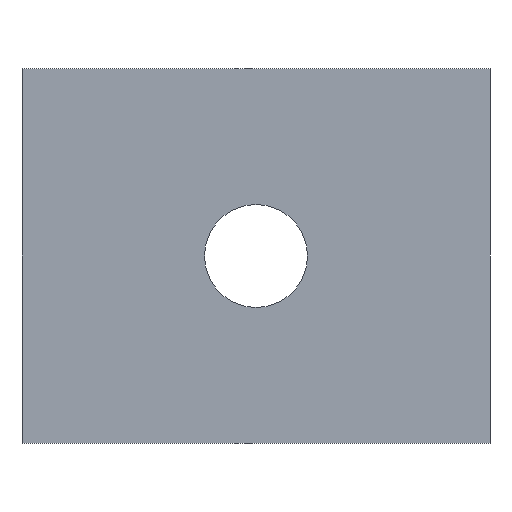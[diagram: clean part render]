
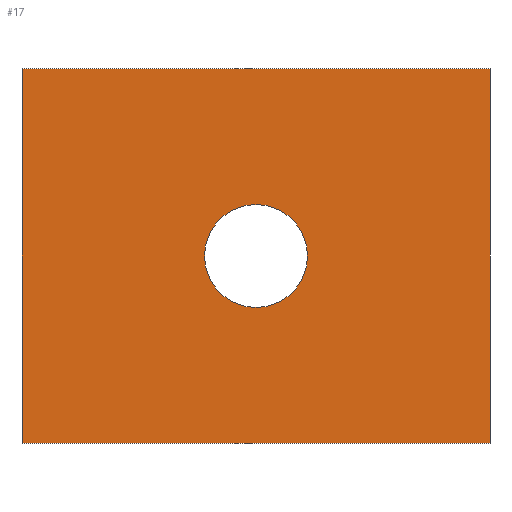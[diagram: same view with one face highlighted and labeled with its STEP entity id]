
A CAD part, left-side view. The second image highlights one B-rep face of the part: STEP entity #17.
In plain terms, the highlighted planar face has unit normal (-1, 0, 0).
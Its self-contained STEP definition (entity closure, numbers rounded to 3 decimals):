
#17 = ADVANCED_FACE('',(#18,#137),#32,.F.);
#18 = FACE_BOUND('',#19,.F.);
#19 = EDGE_LOOP('',(#20,#55,#83,#111));
#20 = ORIENTED_EDGE('',*,*,#21,.F.);
#21 = EDGE_CURVE('',#22,#24,#26,.T.);
#22 = VERTEX_POINT('',#23);
#23 = CARTESIAN_POINT('',(678.,-15.,-34.));
#24 = VERTEX_POINT('',#25);
#25 = CARTESIAN_POINT('',(678.,-15.,-10.));
#26 = SURFACE_CURVE('',#27,(#31,#43),.PCURVE_S1.);
#27 = LINE('',#28,#29);
#28 = CARTESIAN_POINT('',(678.,-15.,-34.));
#29 = VECTOR('',#30,1.);
#30 = DIRECTION('',(0.,0.,1.));
#31 = PCURVE('',#32,#37);
#32 = PLANE('',#33);
#33 = AXIS2_PLACEMENT_3D('',#34,#35,#36);
#34 = CARTESIAN_POINT('',(678.,-15.,-34.));
#35 = DIRECTION('',(1.,0.,0.));
#36 = DIRECTION('',(0.,0.,1.));
#37 = DEFINITIONAL_REPRESENTATION('',(#38),#42);
#38 = LINE('',#39,#40);
#39 = CARTESIAN_POINT('',(0.,0.));
#40 = VECTOR('',#41,1.);
#41 = DIRECTION('',(1.,0.));
#42 = ( GEOMETRIC_REPRESENTATION_CONTEXT(2) 
PARAMETRIC_REPRESENTATION_CONTEXT() REPRESENTATION_CONTEXT('2D SPACE',''
  ) );
#43 = PCURVE('',#44,#49);
#44 = PLANE('',#45);
#45 = AXIS2_PLACEMENT_3D('',#46,#47,#48);
#46 = CARTESIAN_POINT('',(678.,-15.,-34.));
#47 = DIRECTION('',(0.,1.,0.));
#48 = DIRECTION('',(0.,0.,1.));
#49 = DEFINITIONAL_REPRESENTATION('',(#50),#54);
#50 = LINE('',#51,#52);
#51 = CARTESIAN_POINT('',(0.,0.));
#52 = VECTOR('',#53,1.);
#53 = DIRECTION('',(1.,0.));
#54 = ( GEOMETRIC_REPRESENTATION_CONTEXT(2) 
PARAMETRIC_REPRESENTATION_CONTEXT() REPRESENTATION_CONTEXT('2D SPACE',''
  ) );
#55 = ORIENTED_EDGE('',*,*,#56,.T.);
#56 = EDGE_CURVE('',#22,#57,#59,.T.);
#57 = VERTEX_POINT('',#58);
#58 = CARTESIAN_POINT('',(678.,15.,-34.));
#59 = SURFACE_CURVE('',#60,(#64,#71),.PCURVE_S1.);
#60 = LINE('',#61,#62);
#61 = CARTESIAN_POINT('',(678.,-15.,-34.));
#62 = VECTOR('',#63,1.);
#63 = DIRECTION('',(0.,1.,0.));
#64 = PCURVE('',#32,#65);
#65 = DEFINITIONAL_REPRESENTATION('',(#66),#70);
#66 = LINE('',#67,#68);
#67 = CARTESIAN_POINT('',(0.,0.));
#68 = VECTOR('',#69,1.);
#69 = DIRECTION('',(0.,-1.));
#70 = ( GEOMETRIC_REPRESENTATION_CONTEXT(2) 
PARAMETRIC_REPRESENTATION_CONTEXT() REPRESENTATION_CONTEXT('2D SPACE',''
  ) );
#71 = PCURVE('',#72,#77);
#72 = PLANE('',#73);
#73 = AXIS2_PLACEMENT_3D('',#74,#75,#76);
#74 = CARTESIAN_POINT('',(678.,-15.,-34.));
#75 = DIRECTION('',(0.,0.,1.));
#76 = DIRECTION('',(1.,0.,0.));
#77 = DEFINITIONAL_REPRESENTATION('',(#78),#82);
#78 = LINE('',#79,#80);
#79 = CARTESIAN_POINT('',(0.,0.));
#80 = VECTOR('',#81,1.);
#81 = DIRECTION('',(0.,1.));
#82 = ( GEOMETRIC_REPRESENTATION_CONTEXT(2) 
PARAMETRIC_REPRESENTATION_CONTEXT() REPRESENTATION_CONTEXT('2D SPACE',''
  ) );
#83 = ORIENTED_EDGE('',*,*,#84,.T.);
#84 = EDGE_CURVE('',#57,#85,#87,.T.);
#85 = VERTEX_POINT('',#86);
#86 = CARTESIAN_POINT('',(678.,15.,-10.));
#87 = SURFACE_CURVE('',#88,(#92,#99),.PCURVE_S1.);
#88 = LINE('',#89,#90);
#89 = CARTESIAN_POINT('',(678.,15.,-34.));
#90 = VECTOR('',#91,1.);
#91 = DIRECTION('',(0.,0.,1.));
#92 = PCURVE('',#32,#93);
#93 = DEFINITIONAL_REPRESENTATION('',(#94),#98);
#94 = LINE('',#95,#96);
#95 = CARTESIAN_POINT('',(0.,-30.));
#96 = VECTOR('',#97,1.);
#97 = DIRECTION('',(1.,0.));
#98 = ( GEOMETRIC_REPRESENTATION_CONTEXT(2) 
PARAMETRIC_REPRESENTATION_CONTEXT() REPRESENTATION_CONTEXT('2D SPACE',''
  ) );
#99 = PCURVE('',#100,#105);
#100 = PLANE('',#101);
#101 = AXIS2_PLACEMENT_3D('',#102,#103,#104);
#102 = CARTESIAN_POINT('',(678.,15.,-34.));
#103 = DIRECTION('',(0.,1.,0.));
#104 = DIRECTION('',(0.,0.,1.));
#105 = DEFINITIONAL_REPRESENTATION('',(#106),#110);
#106 = LINE('',#107,#108);
#107 = CARTESIAN_POINT('',(0.,0.));
#108 = VECTOR('',#109,1.);
#109 = DIRECTION('',(1.,0.));
#110 = ( GEOMETRIC_REPRESENTATION_CONTEXT(2) 
PARAMETRIC_REPRESENTATION_CONTEXT() REPRESENTATION_CONTEXT('2D SPACE',''
  ) );
#111 = ORIENTED_EDGE('',*,*,#112,.F.);
#112 = EDGE_CURVE('',#24,#85,#113,.T.);
#113 = SURFACE_CURVE('',#114,(#118,#125),.PCURVE_S1.);
#114 = LINE('',#115,#116);
#115 = CARTESIAN_POINT('',(678.,-15.,-10.));
#116 = VECTOR('',#117,1.);
#117 = DIRECTION('',(0.,1.,0.));
#118 = PCURVE('',#32,#119);
#119 = DEFINITIONAL_REPRESENTATION('',(#120),#124);
#120 = LINE('',#121,#122);
#121 = CARTESIAN_POINT('',(24.,0.));
#122 = VECTOR('',#123,1.);
#123 = DIRECTION('',(0.,-1.));
#124 = ( GEOMETRIC_REPRESENTATION_CONTEXT(2) 
PARAMETRIC_REPRESENTATION_CONTEXT() REPRESENTATION_CONTEXT('2D SPACE',''
  ) );
#125 = PCURVE('',#126,#131);
#126 = PLANE('',#127);
#127 = AXIS2_PLACEMENT_3D('',#128,#129,#130);
#128 = CARTESIAN_POINT('',(678.,-15.,-10.));
#129 = DIRECTION('',(0.,0.,1.));
#130 = DIRECTION('',(1.,0.,0.));
#131 = DEFINITIONAL_REPRESENTATION('',(#132),#136);
#132 = LINE('',#133,#134);
#133 = CARTESIAN_POINT('',(0.,0.));
#134 = VECTOR('',#135,1.);
#135 = DIRECTION('',(0.,1.));
#136 = ( GEOMETRIC_REPRESENTATION_CONTEXT(2) 
PARAMETRIC_REPRESENTATION_CONTEXT() REPRESENTATION_CONTEXT('2D SPACE',''
  ) );
#137 = FACE_BOUND('',#138,.F.);
#138 = EDGE_LOOP('',(#139));
#139 = ORIENTED_EDGE('',*,*,#140,.F.);
#140 = EDGE_CURVE('',#141,#141,#143,.T.);
#141 = VERTEX_POINT('',#142);
#142 = CARTESIAN_POINT('',(678.,0.,-18.7));
#143 = SURFACE_CURVE('',#144,(#149,#156),.PCURVE_S1.);
#144 = CIRCLE('',#145,3.3);
#145 = AXIS2_PLACEMENT_3D('',#146,#147,#148);
#146 = CARTESIAN_POINT('',(678.,0.,-22.));
#147 = DIRECTION('',(1.,0.,0.));
#148 = DIRECTION('',(-0.,0.,1.));
#149 = PCURVE('',#32,#150);
#150 = DEFINITIONAL_REPRESENTATION('',(#151),#155);
#151 = CIRCLE('',#152,3.3);
#152 = AXIS2_PLACEMENT_2D('',#153,#154);
#153 = CARTESIAN_POINT('',(12.,-15.));
#154 = DIRECTION('',(1.,0.));
#155 = ( GEOMETRIC_REPRESENTATION_CONTEXT(2) 
PARAMETRIC_REPRESENTATION_CONTEXT() REPRESENTATION_CONTEXT('2D SPACE',''
  ) );
#156 = PCURVE('',#157,#162);
#157 = CYLINDRICAL_SURFACE('',#158,3.3);
#158 = AXIS2_PLACEMENT_3D('',#159,#160,#161);
#159 = CARTESIAN_POINT('',(676.,0.,-22.));
#160 = DIRECTION('',(1.,0.,0.));
#161 = DIRECTION('',(-0.,0.,1.));
#162 = DEFINITIONAL_REPRESENTATION('',(#163),#167);
#163 = LINE('',#164,#165);
#164 = CARTESIAN_POINT('',(0.,2.));
#165 = VECTOR('',#166,1.);
#166 = DIRECTION('',(1.,0.));
#167 = ( GEOMETRIC_REPRESENTATION_CONTEXT(2) 
PARAMETRIC_REPRESENTATION_CONTEXT() REPRESENTATION_CONTEXT('2D SPACE',''
  ) );
